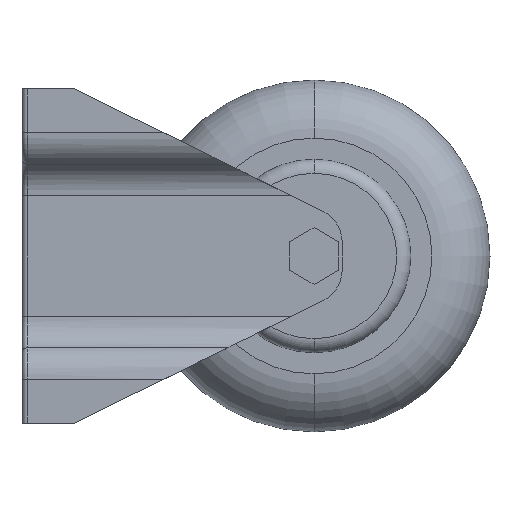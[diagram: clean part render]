
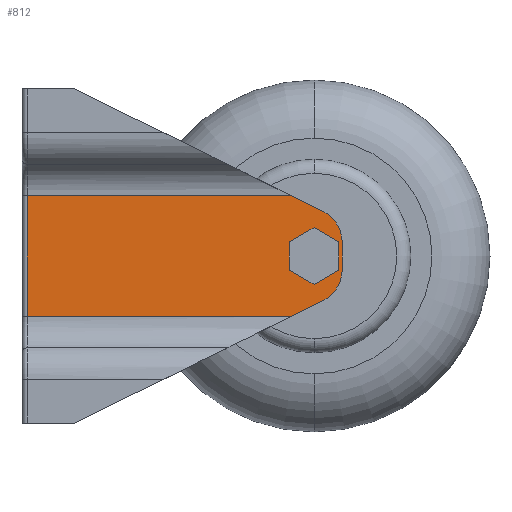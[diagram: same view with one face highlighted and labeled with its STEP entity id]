
A CAD part, left-side view. The second image highlights one B-rep face of the part: STEP entity #812.
In plain terms, the highlighted planar face has unit normal (-1, 0, 0).
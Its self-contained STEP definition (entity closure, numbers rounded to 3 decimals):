
#33 = LINE ( 'NONE', #3848, #530 ) ;
#187 = CIRCLE ( 'NONE', #2528, 10. ) ;
#234 = CARTESIAN_POINT ( 'NONE',  ( -28., -92., -28.717 ) ) ;
#283 = CARTESIAN_POINT ( 'NONE',  ( -28., -102., -28.717 ) ) ;
#341 = EDGE_CURVE ( 'NONE', #2322, #1153, #1317, .T. ) ;
#410 = LINE ( 'NONE', #2293, #620 ) ;
#424 = CARTESIAN_POINT ( 'NONE',  ( -28., -12.5, -49.639 ) ) ;
#435 = CARTESIAN_POINT ( 'NONE',  ( -28., -92., -36.283 ) ) ;
#526 = DIRECTION ( 'NONE',  ( 0., 0., -1. ) ) ;
#530 = VECTOR ( 'NONE', #665, 1000. ) ;
#539 = VERTEX_POINT ( 'NONE', #424 ) ;
#550 = VECTOR ( 'NONE', #526, 1000. ) ;
#620 = VECTOR ( 'NONE', #2341, 1000. ) ;
#665 = DIRECTION ( 'NONE',  ( 0., 0.897, 0.442 ) ) ;
#669 = EDGE_CURVE ( 'NONE', #1259, #1783, #2514, .T. ) ;
#681 = CARTESIAN_POINT ( 'NONE',  ( -28., -96.425, -45.251 ) ) ;
#812 = ADVANCED_FACE ( 'NONE', ( #4075 ), #2705, .F. ) ;
#848 = DIRECTION ( 'NONE',  ( 0., -1., 0. ) ) ;
#1058 = EDGE_CURVE ( 'NONE', #1259, #1899, #2049, .T. ) ;
#1135 = VERTEX_POINT ( 'NONE', #1944 ) ;
#1153 = VERTEX_POINT ( 'NONE', #681 ) ;
#1188 = ORIENTED_EDGE ( 'NONE', *, *, #341, .T. ) ;
#1233 = CARTESIAN_POINT ( 'NONE',  ( -28., -71.6, -49.639 ) ) ;
#1259 = VERTEX_POINT ( 'NONE', #283 ) ;
#1317 = LINE ( 'NONE', #3441, #3720 ) ;
#1453 = CARTESIAN_POINT ( 'NONE',  ( -28., -87.531, -15.361 ) ) ;
#1521 = ORIENTED_EDGE ( 'NONE', *, *, #3118, .T. ) ;
#1550 = LINE ( 'NONE', #3045, #3524 ) ;
#1696 = ORIENTED_EDGE ( 'NONE', *, *, #2653, .T. ) ;
#1783 = VERTEX_POINT ( 'NONE', #4057 ) ;
#1837 = CARTESIAN_POINT ( 'NONE',  ( -28., -96.425, -19.749 ) ) ;
#1848 = ORIENTED_EDGE ( 'NONE', *, *, #3302, .T. ) ;
#1875 = VECTOR ( 'NONE', #848, 1000. ) ;
#1899 = VERTEX_POINT ( 'NONE', #1837 ) ;
#1944 = CARTESIAN_POINT ( 'NONE',  ( -28., -12.5, -15.361 ) ) ;
#1997 = CARTESIAN_POINT ( 'NONE',  ( -28., -102., -57.5 ) ) ;
#2018 = DIRECTION ( 'NONE',  ( 0., -0.897, 0.442 ) ) ;
#2049 = CIRCLE ( 'NONE', #3833, 10. ) ;
#2166 = DIRECTION ( 'NONE',  ( -1., 0., 0. ) ) ;
#2293 = CARTESIAN_POINT ( 'NONE',  ( -28., -11., -15.361 ) ) ;
#2322 = VERTEX_POINT ( 'NONE', #2822 ) ;
#2341 = DIRECTION ( 'NONE',  ( 0., 1., 0. ) ) ;
#2368 = DIRECTION ( 'NONE',  ( 0., 0., -1. ) ) ;
#2514 = LINE ( 'NONE', #3629, #550 ) ;
#2528 = AXIS2_PLACEMENT_3D ( 'NONE', #435, #2166, #3401 ) ;
#2564 = ORIENTED_EDGE ( 'NONE', *, *, #669, .F. ) ;
#2653 = EDGE_CURVE ( 'NONE', #1153, #1783, #187, .T. ) ;
#2705 = PLANE ( 'NONE',  #3041 ) ;
#2725 = VERTEX_POINT ( 'NONE', #1453 ) ;
#2822 = CARTESIAN_POINT ( 'NONE',  ( -28., -87.531, -49.639 ) ) ;
#2945 = DIRECTION ( 'NONE',  ( -1., 0., 0. ) ) ;
#2982 = EDGE_CURVE ( 'NONE', #539, #2322, #3298, .T. ) ;
#3041 = AXIS2_PLACEMENT_3D ( 'NONE', #1997, #4418, #4401 ) ;
#3045 = CARTESIAN_POINT ( 'NONE',  ( -28., -12.5, -57.5 ) ) ;
#3049 = DIRECTION ( 'NONE',  ( 0., 0., -1. ) ) ;
#3118 = EDGE_CURVE ( 'NONE', #1135, #539, #1550, .T. ) ;
#3245 = EDGE_CURVE ( 'NONE', #2725, #1135, #410, .T. ) ;
#3298 = LINE ( 'NONE', #1233, #1875 ) ;
#3302 = EDGE_CURVE ( 'NONE', #1899, #2725, #33, .T. ) ;
#3401 = DIRECTION ( 'NONE',  ( 0., 0., -1. ) ) ;
#3441 = CARTESIAN_POINT ( 'NONE',  ( -28., -96.048, -45.437 ) ) ;
#3524 = VECTOR ( 'NONE', #2368, 1000. ) ;
#3579 = ORIENTED_EDGE ( 'NONE', *, *, #3245, .T. ) ;
#3629 = CARTESIAN_POINT ( 'NONE',  ( -28., -102., -57.5 ) ) ;
#3720 = VECTOR ( 'NONE', #2018, 1000. ) ;
#3833 = AXIS2_PLACEMENT_3D ( 'NONE', #234, #2945, #3049 ) ;
#3848 = CARTESIAN_POINT ( 'NONE',  ( -28., -115.888, -29.353 ) ) ;
#4057 = CARTESIAN_POINT ( 'NONE',  ( -28., -102., -36.283 ) ) ;
#4075 = FACE_OUTER_BOUND ( 'NONE', #4190, .T. ) ;
#4190 = EDGE_LOOP ( 'NONE', ( #3579, #1521, #4365, #1188, #1696, #2564, #4206, #1848 ) ) ;
#4206 = ORIENTED_EDGE ( 'NONE', *, *, #1058, .T. ) ;
#4365 = ORIENTED_EDGE ( 'NONE', *, *, #2982, .T. ) ;
#4401 = DIRECTION ( 'NONE',  ( 0., 0., -1. ) ) ;
#4418 = DIRECTION ( 'NONE',  ( 1., 0., 0. ) ) ;
